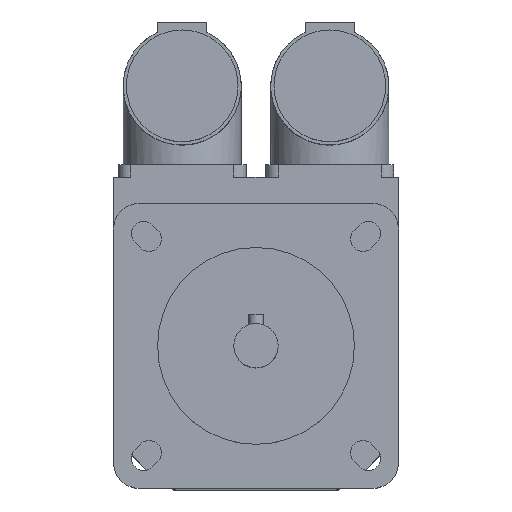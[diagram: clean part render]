
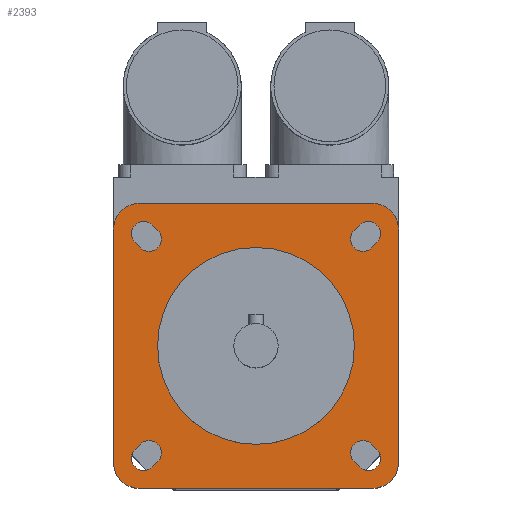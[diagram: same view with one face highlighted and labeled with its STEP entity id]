
A CAD part, top view. The second image highlights one B-rep face of the part: STEP entity #2393.
In plain terms, the highlighted planar face has unit normal (0, 0, 1).
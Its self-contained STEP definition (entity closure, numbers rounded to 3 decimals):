
#32=FACE_BOUND('',#432,.T.);
#33=FACE_BOUND('',#433,.T.);
#34=FACE_BOUND('',#434,.T.);
#35=FACE_BOUND('',#435,.T.);
#36=FACE_BOUND('',#436,.T.);
#51=CIRCLE('',#2486,20.);
#88=CIRCLE('',#2550,2.5);
#92=CIRCLE('',#2557,2.5);
#93=CIRCLE('',#2560,2.5);
#94=CIRCLE('',#2563,2.5);
#104=CIRCLE('',#2578,2.5);
#105=CIRCLE('',#2581,2.5);
#106=CIRCLE('',#2584,2.5);
#107=CIRCLE('',#2587,2.5);
#108=CIRCLE('',#2589,5.5);
#109=CIRCLE('',#2591,5.5);
#110=CIRCLE('',#2593,5.5);
#111=CIRCLE('',#2595,5.5);
#290=FACE_OUTER_BOUND('',#431,.T.);
#431=EDGE_LOOP('',(#1839,#1840,#1841,#1842,#1843,#1844,#1845,#1846));
#432=EDGE_LOOP('',(#1847));
#433=EDGE_LOOP('',(#1848,#1849,#1850,#1851));
#434=EDGE_LOOP('',(#1852,#1853,#1854,#1855));
#435=EDGE_LOOP('',(#1856,#1857,#1858,#1859));
#436=EDGE_LOOP('',(#1860,#1861,#1862,#1863));
#578=LINE('',#3719,#799);
#586=LINE('',#3743,#807);
#590=LINE('',#3753,#811);
#594=LINE('',#3763,#815);
#610=LINE('',#3814,#831);
#612=LINE('',#3820,#833);
#614=LINE('',#3826,#835);
#616=LINE('',#3832,#837);
#625=LINE('',#3860,#846);
#626=LINE('',#3861,#847);
#627=LINE('',#3862,#848);
#628=LINE('',#3863,#849);
#799=VECTOR('',#2944,1.5);
#807=VECTOR('',#2966,1.5);
#811=VECTOR('',#2976,1.5);
#815=VECTOR('',#2986,1.5);
#831=VECTOR('',#3032,1.5);
#833=VECTOR('',#3040,1.5);
#835=VECTOR('',#3048,1.5);
#837=VECTOR('',#3056,1.5);
#846=VECTOR('',#3087,47.);
#847=VECTOR('',#3088,47.);
#848=VECTOR('',#3089,47.);
#849=VECTOR('',#3090,47.);
#974=VERTEX_POINT('',#3540);
#1039=VERTEX_POINT('',#3716);
#1040=VERTEX_POINT('',#3718);
#1041=VERTEX_POINT('',#3722);
#1048=VERTEX_POINT('',#3740);
#1049=VERTEX_POINT('',#3742);
#1050=VERTEX_POINT('',#3746);
#1051=VERTEX_POINT('',#3750);
#1052=VERTEX_POINT('',#3752);
#1053=VERTEX_POINT('',#3756);
#1054=VERTEX_POINT('',#3760);
#1055=VERTEX_POINT('',#3762);
#1056=VERTEX_POINT('',#3766);
#1075=VERTEX_POINT('',#3812);
#1076=VERTEX_POINT('',#3818);
#1077=VERTEX_POINT('',#3824);
#1078=VERTEX_POINT('',#3830);
#1079=VERTEX_POINT('',#3836);
#1080=VERTEX_POINT('',#3838);
#1081=VERTEX_POINT('',#3842);
#1082=VERTEX_POINT('',#3844);
#1083=VERTEX_POINT('',#3848);
#1084=VERTEX_POINT('',#3850);
#1085=VERTEX_POINT('',#3854);
#1086=VERTEX_POINT('',#3856);
#1215=EDGE_CURVE('',#974,#974,#51,.T.);
#1301=EDGE_CURVE('',#1040,#1039,#578,.T.);
#1304=EDGE_CURVE('',#1039,#1041,#88,.T.);
#1313=EDGE_CURVE('',#1049,#1048,#586,.T.);
#1316=EDGE_CURVE('',#1048,#1050,#92,.T.);
#1318=EDGE_CURVE('',#1052,#1051,#590,.T.);
#1321=EDGE_CURVE('',#1051,#1053,#93,.T.);
#1323=EDGE_CURVE('',#1055,#1054,#594,.T.);
#1326=EDGE_CURVE('',#1054,#1056,#94,.T.);
#1349=EDGE_CURVE('',#1053,#1075,#610,.T.);
#1350=EDGE_CURVE('',#1075,#1052,#104,.T.);
#1352=EDGE_CURVE('',#1050,#1076,#612,.T.);
#1353=EDGE_CURVE('',#1076,#1049,#105,.T.);
#1355=EDGE_CURVE('',#1056,#1077,#614,.T.);
#1356=EDGE_CURVE('',#1077,#1055,#106,.T.);
#1358=EDGE_CURVE('',#1041,#1078,#616,.T.);
#1359=EDGE_CURVE('',#1078,#1040,#107,.T.);
#1361=EDGE_CURVE('',#1080,#1079,#108,.T.);
#1364=EDGE_CURVE('',#1082,#1081,#109,.T.);
#1367=EDGE_CURVE('',#1084,#1083,#110,.T.);
#1370=EDGE_CURVE('',#1086,#1085,#111,.T.);
#1372=EDGE_CURVE('',#1079,#1086,#625,.T.);
#1373=EDGE_CURVE('',#1085,#1084,#626,.T.);
#1374=EDGE_CURVE('',#1083,#1082,#627,.T.);
#1375=EDGE_CURVE('',#1081,#1080,#628,.T.);
#1839=ORIENTED_EDGE('',*,*,#1372,.T.);
#1840=ORIENTED_EDGE('',*,*,#1370,.T.);
#1841=ORIENTED_EDGE('',*,*,#1373,.T.);
#1842=ORIENTED_EDGE('',*,*,#1367,.T.);
#1843=ORIENTED_EDGE('',*,*,#1374,.T.);
#1844=ORIENTED_EDGE('',*,*,#1364,.T.);
#1845=ORIENTED_EDGE('',*,*,#1375,.T.);
#1846=ORIENTED_EDGE('',*,*,#1361,.T.);
#1847=ORIENTED_EDGE('',*,*,#1215,.T.);
#1848=ORIENTED_EDGE('',*,*,#1349,.T.);
#1849=ORIENTED_EDGE('',*,*,#1350,.T.);
#1850=ORIENTED_EDGE('',*,*,#1318,.T.);
#1851=ORIENTED_EDGE('',*,*,#1321,.T.);
#1852=ORIENTED_EDGE('',*,*,#1352,.T.);
#1853=ORIENTED_EDGE('',*,*,#1353,.T.);
#1854=ORIENTED_EDGE('',*,*,#1313,.T.);
#1855=ORIENTED_EDGE('',*,*,#1316,.T.);
#1856=ORIENTED_EDGE('',*,*,#1355,.T.);
#1857=ORIENTED_EDGE('',*,*,#1356,.T.);
#1858=ORIENTED_EDGE('',*,*,#1323,.T.);
#1859=ORIENTED_EDGE('',*,*,#1326,.T.);
#1860=ORIENTED_EDGE('',*,*,#1358,.T.);
#1861=ORIENTED_EDGE('',*,*,#1359,.T.);
#1862=ORIENTED_EDGE('',*,*,#1301,.T.);
#1863=ORIENTED_EDGE('',*,*,#1304,.T.);
#2297=PLANE('',#2596);
#2393=ADVANCED_FACE('',(#290,#32,#33,#34,#35,#36),#2297,.T.);
#2486=AXIS2_PLACEMENT_3D('',#3541,#2769,#2770);
#2550=AXIS2_PLACEMENT_3D('',#3724,#2949,#2950);
#2557=AXIS2_PLACEMENT_3D('',#3748,#2971,#2972);
#2560=AXIS2_PLACEMENT_3D('',#3758,#2981,#2982);
#2563=AXIS2_PLACEMENT_3D('',#3768,#2991,#2992);
#2578=AXIS2_PLACEMENT_3D('',#3816,#3035,#3036);
#2581=AXIS2_PLACEMENT_3D('',#3822,#3043,#3044);
#2584=AXIS2_PLACEMENT_3D('',#3828,#3051,#3052);
#2587=AXIS2_PLACEMENT_3D('',#3834,#3059,#3060);
#2589=AXIS2_PLACEMENT_3D('',#3839,#3064,#3065);
#2591=AXIS2_PLACEMENT_3D('',#3845,#3070,#3071);
#2593=AXIS2_PLACEMENT_3D('',#3851,#3076,#3077);
#2595=AXIS2_PLACEMENT_3D('',#3857,#3082,#3083);
#2596=AXIS2_PLACEMENT_3D('',#3859,#3085,#3086);
#2769=DIRECTION('center_axis',(0.,0.,-1.));
#2770=DIRECTION('ref_axis',(-1.,0.,0.));
#2944=DIRECTION('',(-0.707,-0.707,0.));
#2949=DIRECTION('center_axis',(0.,0.,-1.));
#2950=DIRECTION('ref_axis',(0.707,-0.707,0.));
#2966=DIRECTION('',(-0.707,0.707,0.));
#2971=DIRECTION('center_axis',(0.,0.,-1.));
#2972=DIRECTION('ref_axis',(-0.707,-0.707,0.));
#2976=DIRECTION('',(-0.707,-0.707,0.));
#2981=DIRECTION('center_axis',(0.,0.,-1.));
#2982=DIRECTION('ref_axis',(0.707,-0.707,0.));
#2986=DIRECTION('',(-0.707,0.707,0.));
#2991=DIRECTION('center_axis',(0.,0.,-1.));
#2992=DIRECTION('ref_axis',(-0.707,-0.707,0.));
#3032=DIRECTION('',(0.707,0.707,0.));
#3035=DIRECTION('center_axis',(0.,0.,-1.));
#3036=DIRECTION('ref_axis',(-0.707,0.707,0.));
#3040=DIRECTION('',(0.707,-0.707,0.));
#3043=DIRECTION('center_axis',(0.,0.,-1.));
#3044=DIRECTION('ref_axis',(0.707,0.707,0.));
#3048=DIRECTION('',(0.707,-0.707,0.));
#3051=DIRECTION('center_axis',(0.,0.,-1.));
#3052=DIRECTION('ref_axis',(0.707,0.707,0.));
#3056=DIRECTION('',(0.707,0.707,0.));
#3059=DIRECTION('center_axis',(0.,0.,-1.));
#3060=DIRECTION('ref_axis',(-0.707,0.707,0.));
#3064=DIRECTION('center_axis',(0.,0.,1.));
#3065=DIRECTION('ref_axis',(1.,0.,0.));
#3070=DIRECTION('center_axis',(0.,0.,1.));
#3071=DIRECTION('ref_axis',(0.,-1.,0.));
#3076=DIRECTION('center_axis',(0.,0.,1.));
#3077=DIRECTION('ref_axis',(-1.,0.,0.));
#3082=DIRECTION('center_axis',(0.,0.,1.));
#3083=DIRECTION('ref_axis',(0.,1.,0.));
#3085=DIRECTION('center_axis',(0.,0.,1.));
#3086=DIRECTION('ref_axis',(1.,0.,0.));
#3087=DIRECTION('',(-1.,0.,0.));
#3088=DIRECTION('',(0.,-1.,0.));
#3089=DIRECTION('',(1.,0.,0.));
#3090=DIRECTION('',(0.,1.,0.));
#3540=CARTESIAN_POINT('',(20.,0.,122.5));
#3541=CARTESIAN_POINT('Origin',(0.,0.,122.5));
#3716=CARTESIAN_POINT('',(-21.036,-24.572,122.5));
#3718=CARTESIAN_POINT('',(-19.976,-23.511,122.5));
#3719=CARTESIAN_POINT('',(-9.634,-13.17,122.5));
#3722=CARTESIAN_POINT('',(-24.572,-21.036,122.5));
#3724=CARTESIAN_POINT('Origin',(-22.804,-22.804,122.5));
#3740=CARTESIAN_POINT('',(-24.572,21.036,122.5));
#3742=CARTESIAN_POINT('',(-23.511,19.976,122.5));
#3743=CARTESIAN_POINT('',(-13.17,9.634,122.5));
#3746=CARTESIAN_POINT('',(-21.036,24.572,122.5));
#3748=CARTESIAN_POINT('Origin',(-22.804,22.804,122.5));
#3750=CARTESIAN_POINT('',(23.511,19.976,122.5));
#3752=CARTESIAN_POINT('',(24.572,21.036,122.5));
#3753=CARTESIAN_POINT('',(12.64,9.104,122.5));
#3756=CARTESIAN_POINT('',(19.976,23.511,122.5));
#3758=CARTESIAN_POINT('Origin',(21.744,21.744,122.5));
#3760=CARTESIAN_POINT('',(19.976,-23.511,122.5));
#3762=CARTESIAN_POINT('',(21.036,-24.572,122.5));
#3763=CARTESIAN_POINT('',(9.104,-12.64,122.5));
#3766=CARTESIAN_POINT('',(23.511,-19.976,122.5));
#3768=CARTESIAN_POINT('Origin',(21.744,-21.744,122.5));
#3812=CARTESIAN_POINT('',(21.036,24.572,122.5));
#3814=CARTESIAN_POINT('',(9.634,13.17,122.5));
#3816=CARTESIAN_POINT('Origin',(22.804,22.804,122.5));
#3818=CARTESIAN_POINT('',(-19.976,23.511,122.5));
#3820=CARTESIAN_POINT('',(-9.104,12.64,122.5));
#3822=CARTESIAN_POINT('Origin',(-21.744,21.744,122.5));
#3824=CARTESIAN_POINT('',(24.572,-21.036,122.5));
#3826=CARTESIAN_POINT('',(13.17,-9.634,122.5));
#3828=CARTESIAN_POINT('Origin',(22.804,-22.804,122.5));
#3830=CARTESIAN_POINT('',(-23.511,-19.976,122.5));
#3832=CARTESIAN_POINT('',(-12.64,-9.104,122.5));
#3834=CARTESIAN_POINT('Origin',(-21.744,-21.744,122.5));
#3836=CARTESIAN_POINT('',(23.5,29.,122.5));
#3838=CARTESIAN_POINT('',(29.,23.5,122.5));
#3839=CARTESIAN_POINT('Origin',(23.5,23.5,122.5));
#3842=CARTESIAN_POINT('',(29.,-23.5,122.5));
#3844=CARTESIAN_POINT('',(23.5,-29.,122.5));
#3845=CARTESIAN_POINT('Origin',(23.5,-23.5,122.5));
#3848=CARTESIAN_POINT('',(-23.5,-29.,122.5));
#3850=CARTESIAN_POINT('',(-29.,-23.5,122.5));
#3851=CARTESIAN_POINT('Origin',(-23.5,-23.5,122.5));
#3854=CARTESIAN_POINT('',(-29.,23.5,122.5));
#3856=CARTESIAN_POINT('',(-23.5,29.,122.5));
#3857=CARTESIAN_POINT('Origin',(-23.5,23.5,122.5));
#3859=CARTESIAN_POINT('Origin',(0.,0.,
122.5));
#3860=CARTESIAN_POINT('',(23.5,29.,122.5));
#3861=CARTESIAN_POINT('',(-29.,23.5,122.5));
#3862=CARTESIAN_POINT('',(-23.5,-29.,122.5));
#3863=CARTESIAN_POINT('',(29.,-23.5,122.5));
